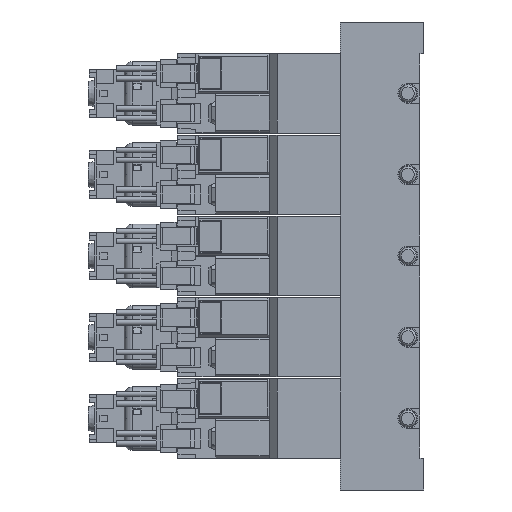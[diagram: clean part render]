
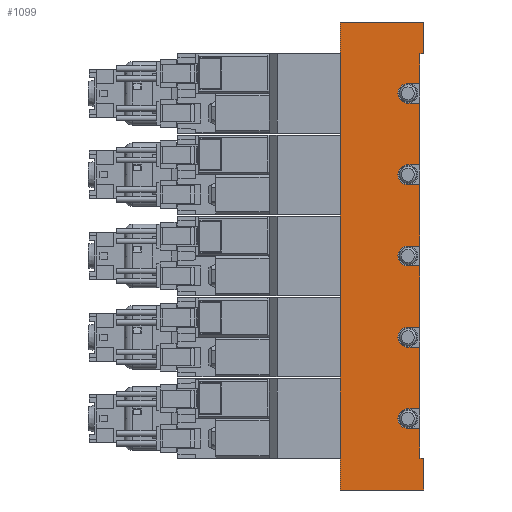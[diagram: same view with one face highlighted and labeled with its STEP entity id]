
A CAD part, left-side view. The second image highlights one B-rep face of the part: STEP entity #1099.
In plain terms, the highlighted planar face has unit normal (-1, 0, 0) as drawn and (1, 0, 0) by its records, which use the part's own axes.
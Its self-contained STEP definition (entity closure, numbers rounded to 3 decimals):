
#1099=ADVANCED_FACE('',(#4131),#4132,.F.);
#4131=FACE_OUTER_BOUND('',#9871,.T.);
#4132=PLANE('',#9872);
#9871=EDGE_LOOP('',(#18164,#18165,#18166,#18167,#18168,#18169,#18170,#18171,#18172,#18173,#18174,#18175,#18176,#18177,#18178,#18179,#18180,#18181,#18182,#18183,#18184,#18185,#18186,#18187,#18188,#18189,#18190,#18191));
#9872=AXIS2_PLACEMENT_3D('',#18192,#18193,#18194);
#18164=ORIENTED_EDGE('',*,*,#35509,.T.);
#18165=ORIENTED_EDGE('',*,*,#35580,.T.);
#18166=ORIENTED_EDGE('',*,*,#35570,.F.);
#18167=ORIENTED_EDGE('',*,*,#35595,.F.);
#18168=ORIENTED_EDGE('',*,*,#35515,.T.);
#18169=ORIENTED_EDGE('',*,*,#35596,.T.);
#18170=ORIENTED_EDGE('',*,*,#35597,.T.);
#18171=ORIENTED_EDGE('',*,*,#35590,.F.);
#18172=ORIENTED_EDGE('',*,*,#35588,.F.);
#18173=ORIENTED_EDGE('',*,*,#35598,.F.);
#18174=ORIENTED_EDGE('',*,*,#35599,.T.);
#18175=ORIENTED_EDGE('',*,*,#35452,.F.);
#18176=ORIENTED_EDGE('',*,*,#35600,.F.);
#18177=ORIENTED_EDGE('',*,*,#35601,.F.);
#18178=ORIENTED_EDGE('',*,*,#35602,.T.);
#18179=ORIENTED_EDGE('',*,*,#35539,.F.);
#18180=ORIENTED_EDGE('',*,*,#35499,.F.);
#18181=ORIENTED_EDGE('',*,*,#35559,.F.);
#18182=ORIENTED_EDGE('',*,*,#35603,.T.);
#18183=ORIENTED_EDGE('',*,*,#35551,.F.);
#18184=ORIENTED_EDGE('',*,*,#35495,.F.);
#18185=ORIENTED_EDGE('',*,*,#35592,.F.);
#18186=ORIENTED_EDGE('',*,*,#35604,.T.);
#18187=ORIENTED_EDGE('',*,*,#35605,.F.);
#18188=ORIENTED_EDGE('',*,*,#35606,.F.);
#18189=ORIENTED_EDGE('',*,*,#35607,.F.);
#18190=ORIENTED_EDGE('',*,*,#35608,.T.);
#18191=ORIENTED_EDGE('',*,*,#35532,.T.);
#18192=CARTESIAN_POINT('',(17.5,1.0,59.0));
#18193=DIRECTION('',(-1.0,0.0,0.0));
#18194=DIRECTION('',(0.0,0.0,1.0));
#35452=EDGE_CURVE('',#42996,#42997,#42998,.T.);
#35495=EDGE_CURVE('',#43075,#43077,#43078,.T.);
#35499=EDGE_CURVE('',#43081,#43083,#43084,.T.);
#35509=EDGE_CURVE('',#43100,#43101,#43102,.T.);
#35515=EDGE_CURVE('',#43112,#43113,#43114,.T.);
#35532=EDGE_CURVE('',#43138,#43100,#43143,.T.);
#35539=EDGE_CURVE('',#43083,#43154,#43155,.T.);
#35551=EDGE_CURVE('',#43077,#43177,#43178,.T.);
#35559=EDGE_CURVE('',#43192,#43081,#43193,.T.);
#35570=EDGE_CURVE('',#43210,#43205,#43212,.T.);
#35580=EDGE_CURVE('',#43101,#43205,#43228,.T.);
#35588=EDGE_CURVE('',#43238,#43240,#43241,.T.);
#35590=EDGE_CURVE('',#43240,#43243,#43244,.T.);
#35592=EDGE_CURVE('',#43246,#43075,#43247,.T.);
#35595=EDGE_CURVE('',#43112,#43210,#43251,.T.);
#35596=EDGE_CURVE('',#43113,#43252,#43253,.T.);
#35597=EDGE_CURVE('',#43252,#43243,#43254,.T.);
#35598=EDGE_CURVE('',#43255,#43238,#43256,.T.);
#35599=EDGE_CURVE('',#43255,#42997,#43257,.T.);
#35600=EDGE_CURVE('',#43258,#42996,#43259,.T.);
#35601=EDGE_CURVE('',#43260,#43258,#43261,.T.);
#35602=EDGE_CURVE('',#43260,#43154,#43262,.T.);
#35603=EDGE_CURVE('',#43192,#43177,#43263,.T.);
#35604=EDGE_CURVE('',#43246,#43264,#43265,.T.);
#35605=EDGE_CURVE('',#43266,#43264,#43267,.T.);
#35606=EDGE_CURVE('',#43268,#43266,#43269,.T.);
#35607=EDGE_CURVE('',#43270,#43268,#43271,.T.);
#35608=EDGE_CURVE('',#43270,#43138,#43272,.T.);
#42996=VERTEX_POINT('',#54352);
#42997=VERTEX_POINT('',#54353);
#42998=LINE('',#54354,#54355);
#43075=VERTEX_POINT('',#54622);
#43077=VERTEX_POINT('',#54625);
#43078=CIRCLE('',#54626,2.5);
#43081=VERTEX_POINT('',#54630);
#43083=VERTEX_POINT('',#54633);
#43084=CIRCLE('',#54634,2.5);
#43100=VERTEX_POINT('',#54653);
#43101=VERTEX_POINT('',#54654);
#43102=LINE('',#54655,#54656);
#43112=VERTEX_POINT('',#54669);
#43113=VERTEX_POINT('',#54670);
#43114=LINE('',#54671,#54672);
#43138=VERTEX_POINT('',#54705);
#43143=LINE('',#54713,#54714);
#43154=VERTEX_POINT('',#54725);
#43155=LINE('',#54726,#54727);
#43177=VERTEX_POINT('',#54754);
#43178=LINE('',#54755,#54756);
#43192=VERTEX_POINT('',#54772);
#43193=LINE('',#54773,#54774);
#43205=VERTEX_POINT('',#54790);
#43210=VERTEX_POINT('',#54797);
#43212=LINE('',#54800,#54801);
#43228=LINE('',#54819,#54820);
#43238=VERTEX_POINT('',#54832);
#43240=VERTEX_POINT('',#54835);
#43241=CIRCLE('',#54836,2.5);
#43243=VERTEX_POINT('',#54839);
#43244=LINE('',#54840,#54841);
#43246=VERTEX_POINT('',#54844);
#43247=LINE('',#54845,#54846);
#43251=LINE('',#54852,#54853);
#43252=VERTEX_POINT('',#54854);
#43253=LINE('',#54855,#54856);
#43254=LINE('',#54857,#54858);
#43255=VERTEX_POINT('',#54859);
#43256=LINE('',#54860,#54861);
#43257=LINE('',#54862,#54863);
#43258=VERTEX_POINT('',#54864);
#43259=CIRCLE('',#54865,2.5);
#43260=VERTEX_POINT('',#54866);
#43261=LINE('',#54867,#54868);
#43262=LINE('',#54869,#54870);
#43263=LINE('',#54871,#54872);
#43264=VERTEX_POINT('',#54873);
#43265=LINE('',#54874,#54875);
#43266=VERTEX_POINT('',#54876);
#43267=LINE('',#54877,#54878);
#43268=VERTEX_POINT('',#54879);
#43269=CIRCLE('',#54880,2.5);
#43270=VERTEX_POINT('',#54881);
#43271=LINE('',#54882,#54883);
#43272=LINE('',#54884,#54885);
#54352=CARTESIAN_POINT('',(17.5,4.0,23.0));
#54353=CARTESIAN_POINT('',(17.5,1.0,23.0));
#54354=CARTESIAN_POINT('',(17.5,1.0,23.0));
#54355=VECTOR('',#69092,1.0);
#54622=CARTESIAN_POINT('',(17.5,4.0,-23.0));
#54625=CARTESIAN_POINT('',(17.5,4.0,-18.0));
#54626=AXIS2_PLACEMENT_3D('',#69171,#69172,#69173);
#54630=CARTESIAN_POINT('',(17.5,4.0,-2.5));
#54633=CARTESIAN_POINT('',(17.5,4.0,2.5));
#54634=AXIS2_PLACEMENT_3D('',#69179,#69180,#69181);
#54653=CARTESIAN_POINT('',(17.5,0.0,-51.0));
#54654=CARTESIAN_POINT('',(17.5,0.0,-59.0));
#54655=CARTESIAN_POINT('',(17.5,0.0,-51.0));
#54656=VECTOR('',#69203,1.0);
#54669=CARTESIAN_POINT('',(17.5,0.0,59.0));
#54670=CARTESIAN_POINT('',(17.5,0.0,51.0));
#54671=CARTESIAN_POINT('',(17.5,0.0,59.0));
#54672=VECTOR('',#69213,1.0);
#54705=CARTESIAN_POINT('',(17.5,1.0,-51.0));
#54713=CARTESIAN_POINT('',(17.5,4.0,-51.0));
#54714=VECTOR('',#69238,1.0);
#54725=CARTESIAN_POINT('',(17.5,1.0,2.5));
#54726=CARTESIAN_POINT('',(17.5,1.0,2.5));
#54727=VECTOR('',#69254,1.0);
#54754=CARTESIAN_POINT('',(17.5,1.0,-18.0));
#54755=CARTESIAN_POINT('',(17.5,1.0,-18.0));
#54756=VECTOR('',#69278,1.0);
#54772=CARTESIAN_POINT('',(17.5,1.0,-2.5));
#54773=CARTESIAN_POINT('',(17.5,1.0,-2.5));
#54774=VECTOR('',#69296,1.0);
#54790=CARTESIAN_POINT('',(17.5,21.0,-59.0));
#54797=CARTESIAN_POINT('',(17.5,21.0,59.0));
#54800=CARTESIAN_POINT('',(17.5,21.0,59.0));
#54801=VECTOR('',#69313,1.0);
#54819=CARTESIAN_POINT('',(17.5,1.0,-59.0));
#54820=VECTOR('',#69334,1.0);
#54832=CARTESIAN_POINT('',(17.5,4.0,38.5));
#54835=CARTESIAN_POINT('',(17.5,4.0,43.5));
#54836=AXIS2_PLACEMENT_3D('',#69350,#69351,#69352);
#54839=CARTESIAN_POINT('',(17.5,1.0,43.5));
#54840=CARTESIAN_POINT('',(17.5,1.0,43.5));
#54841=VECTOR('',#69354,1.0);
#54844=CARTESIAN_POINT('',(17.5,1.0,-23.0));
#54845=CARTESIAN_POINT('',(17.5,1.0,-23.0));
#54846=VECTOR('',#69356,1.0);
#54852=CARTESIAN_POINT('',(17.5,1.0,59.0));
#54853=VECTOR('',#69359,1.0);
#54854=CARTESIAN_POINT('',(17.5,1.0,51.0));
#54855=CARTESIAN_POINT('',(17.5,0.0,51.0));
#54856=VECTOR('',#69360,1.0);
#54857=CARTESIAN_POINT('',(17.5,1.0,59.0));
#54858=VECTOR('',#69361,1.0);
#54859=CARTESIAN_POINT('',(17.5,1.0,38.5));
#54860=CARTESIAN_POINT('',(17.5,1.0,38.5));
#54861=VECTOR('',#69362,1.0);
#54862=CARTESIAN_POINT('',(17.5,1.0,59.0));
#54863=VECTOR('',#69363,1.0);
#54864=CARTESIAN_POINT('',(17.5,4.0,18.0));
#54865=AXIS2_PLACEMENT_3D('',#69364,#69365,#69366);
#54866=CARTESIAN_POINT('',(17.5,1.0,18.0));
#54867=CARTESIAN_POINT('',(17.5,1.0,18.0));
#54868=VECTOR('',#69367,1.0);
#54869=CARTESIAN_POINT('',(17.5,1.0,59.0));
#54870=VECTOR('',#69368,1.0);
#54871=CARTESIAN_POINT('',(17.5,1.0,59.0));
#54872=VECTOR('',#69369,1.0);
#54873=CARTESIAN_POINT('',(17.5,1.0,-38.5));
#54874=CARTESIAN_POINT('',(17.5,1.0,59.0));
#54875=VECTOR('',#69370,1.0);
#54876=CARTESIAN_POINT('',(17.5,4.0,-38.5));
#54877=CARTESIAN_POINT('',(17.5,1.0,-38.5));
#54878=VECTOR('',#69371,1.0);
#54879=CARTESIAN_POINT('',(17.5,4.0,-43.5));
#54880=AXIS2_PLACEMENT_3D('',#69372,#69373,#69374);
#54881=CARTESIAN_POINT('',(17.5,1.0,-43.5));
#54882=CARTESIAN_POINT('',(17.5,1.0,-43.5));
#54883=VECTOR('',#69375,1.0);
#54884=CARTESIAN_POINT('',(17.5,1.0,59.0));
#54885=VECTOR('',#69376,1.0);
#69092=DIRECTION('',(0.0,-1.0,0.0));
#69171=CARTESIAN_POINT('',(17.5,4.0,-20.5));
#69172=DIRECTION('',(1.0,0.0,-0.0));
#69173=DIRECTION('',(0.0,0.0,1.0));
#69179=CARTESIAN_POINT('',(17.5,4.0,0.0));
#69180=DIRECTION('',(1.0,0.0,-0.0));
#69181=DIRECTION('',(0.0,0.0,1.0));
#69203=DIRECTION('',(0.0,0.0,-1.0));
#69213=DIRECTION('',(0.0,0.0,-1.0));
#69238=DIRECTION('',(0.0,-1.0,0.0));
#69254=DIRECTION('',(0.0,-1.0,0.0));
#69278=DIRECTION('',(0.0,-1.0,0.0));
#69296=DIRECTION('',(0.0,1.0,0.0));
#69313=DIRECTION('',(0.0,0.0,-1.0));
#69334=DIRECTION('',(0.0,1.0,0.0));
#69350=CARTESIAN_POINT('',(17.5,4.0,41.0));
#69351=DIRECTION('',(1.0,0.0,-0.0));
#69352=DIRECTION('',(0.0,0.0,1.0));
#69354=DIRECTION('',(0.0,-1.0,0.0));
#69356=DIRECTION('',(0.0,1.0,0.0));
#69359=DIRECTION('',(0.0,1.0,0.0));
#69360=DIRECTION('',(0.0,1.0,0.0));
#69361=DIRECTION('',(0.0,0.0,-1.0));
#69362=DIRECTION('',(0.0,1.0,0.0));
#69363=DIRECTION('',(0.0,0.0,-1.0));
#69364=CARTESIAN_POINT('',(17.5,4.0,20.5));
#69365=DIRECTION('',(1.0,0.0,-0.0));
#69366=DIRECTION('',(0.0,0.0,1.0));
#69367=DIRECTION('',(0.0,1.0,0.0));
#69368=DIRECTION('',(0.0,0.0,-1.0));
#69369=DIRECTION('',(0.0,0.0,-1.0));
#69370=DIRECTION('',(0.0,0.0,-1.0));
#69371=DIRECTION('',(0.0,-1.0,0.0));
#69372=CARTESIAN_POINT('',(17.5,4.0,-41.0));
#69373=DIRECTION('',(1.0,0.0,-0.0));
#69374=DIRECTION('',(0.0,0.0,1.0));
#69375=DIRECTION('',(0.0,1.0,0.0));
#69376=DIRECTION('',(0.0,0.0,-1.0));
